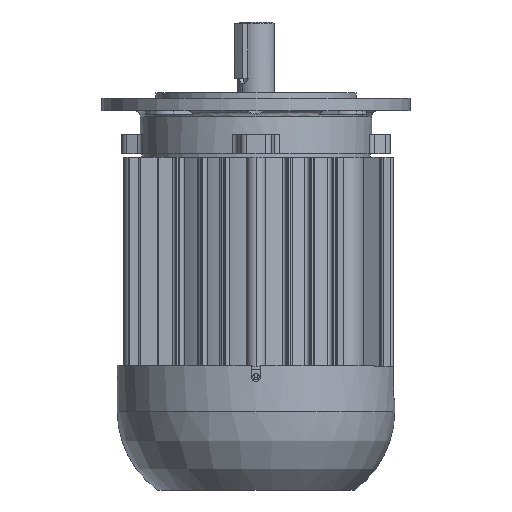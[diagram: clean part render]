
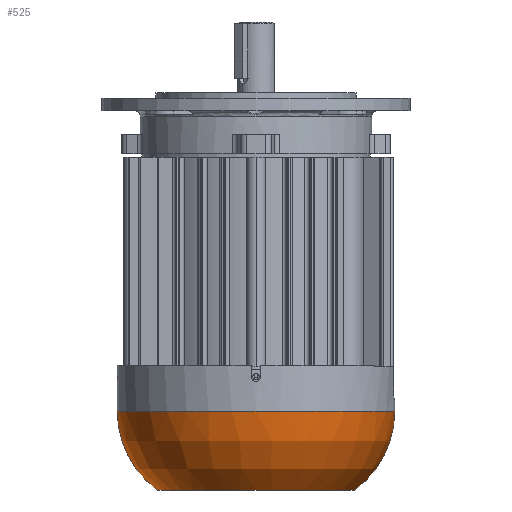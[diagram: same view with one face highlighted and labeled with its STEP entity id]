
A CAD part, left-side view. The second image highlights one B-rep face of the part: STEP entity #525.
In plain terms, the highlighted toroidal (fillet/blend) face has major radius 26.981 mm and minor radius 63.019 mm.
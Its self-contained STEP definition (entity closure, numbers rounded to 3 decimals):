
#525 = ADVANCED_FACE ( 'NONE', ( #21909 ), #32121, .T. ) ;
#1079 = ORIENTED_EDGE ( 'NONE', *, *, #2336, .T. ) ;
#2336 = EDGE_CURVE ( 'NONE', #8349, #10094, #26239, .T. ) ;
#3243 = CARTESIAN_POINT ( 'NONE',  ( 0., 0., -64. ) ) ;
#4351 = CARTESIAN_POINT ( 'NONE',  ( 0., -51., 90. ) ) ;
#6348 = EDGE_CURVE ( 'NONE', #11470, #28010, #27023, .T. ) ;
#7665 = CIRCLE ( 'NONE', #16159, 63.019 ) ;
#7760 = CIRCLE ( 'NONE', #37232, 63.019 ) ;
#8038 = DIRECTION ( 'NONE',  ( 1., 0., 0. ) ) ;
#8349 = VERTEX_POINT ( 'NONE', #14737 ) ;
#8509 = DIRECTION ( 'NONE',  ( 0., 0., 1. ) ) ;
#8785 = CARTESIAN_POINT ( 'NONE',  ( 0., 0., 0. ) ) ;
#9154 = DIRECTION ( 'NONE',  ( 0., 0., 1. ) ) ;
#10094 = VERTEX_POINT ( 'NONE', #4351 ) ;
#10949 = EDGE_LOOP ( 'NONE', ( #44004, #1079, #42135, #23579 ) ) ;
#11470 = VERTEX_POINT ( 'NONE', #3243 ) ;
#12532 = DIRECTION ( 'NONE',  ( 0., 0., 1. ) ) ;
#12641 = CARTESIAN_POINT ( 'NONE',  ( 0., -51., 0. ) ) ;
#12656 = CARTESIAN_POINT ( 'NONE',  ( 0., 0., 64. ) ) ;
#14737 = CARTESIAN_POINT ( 'NONE',  ( 0., -51., -90. ) ) ;
#16159 = AXIS2_PLACEMENT_3D ( 'NONE', #16433, #20344, #9154 ) ;
#16419 = AXIS2_PLACEMENT_3D ( 'NONE', #8785, #23605, #45430 ) ;
#16433 = CARTESIAN_POINT ( 'NONE',  ( 0., -51., 26.981 ) ) ;
#16542 = AXIS2_PLACEMENT_3D ( 'NONE', #12641, #41109, #8509 ) ;
#20344 = DIRECTION ( 'NONE',  ( -1., 0., 0. ) ) ;
#21909 = FACE_OUTER_BOUND ( 'NONE', #10949, .T. ) ;
#22609 = DIRECTION ( 'NONE',  ( 0., 1., 0. ) ) ;
#23579 = ORIENTED_EDGE ( 'NONE', *, *, #6348, .F. ) ;
#23605 = DIRECTION ( 'NONE',  ( 0., 1., 0. ) ) ;
#25552 = CARTESIAN_POINT ( 'NONE',  ( 0., -51., -26.981 ) ) ;
#26239 = CIRCLE ( 'NONE', #16542, 90. ) ;
#27023 = CIRCLE ( 'NONE', #16419, 64. ) ;
#28010 = VERTEX_POINT ( 'NONE', #12656 ) ;
#31433 = EDGE_CURVE ( 'NONE', #10094, #28010, #7665, .T. ) ;
#32121 = TOROIDAL_SURFACE ( 'NONE', #41623, 26.981, 63.019 ) ;
#33038 = DIRECTION ( 'NONE',  ( 0., 0., -1. ) ) ;
#36382 = EDGE_CURVE ( 'NONE', #8349, #11470, #7760, .T. ) ;
#37232 = AXIS2_PLACEMENT_3D ( 'NONE', #25552, #8038, #33038 ) ;
#41109 = DIRECTION ( 'NONE',  ( 0., 1., 0. ) ) ;
#41623 = AXIS2_PLACEMENT_3D ( 'NONE', #44294, #22609, #12532 ) ;
#42135 = ORIENTED_EDGE ( 'NONE', *, *, #31433, .T. ) ;
#44004 = ORIENTED_EDGE ( 'NONE', *, *, #36382, .F. ) ;
#44294 = CARTESIAN_POINT ( 'NONE',  ( 0., -51., 0. ) ) ;
#45430 = DIRECTION ( 'NONE',  ( 0., 0., 1. ) ) ;
